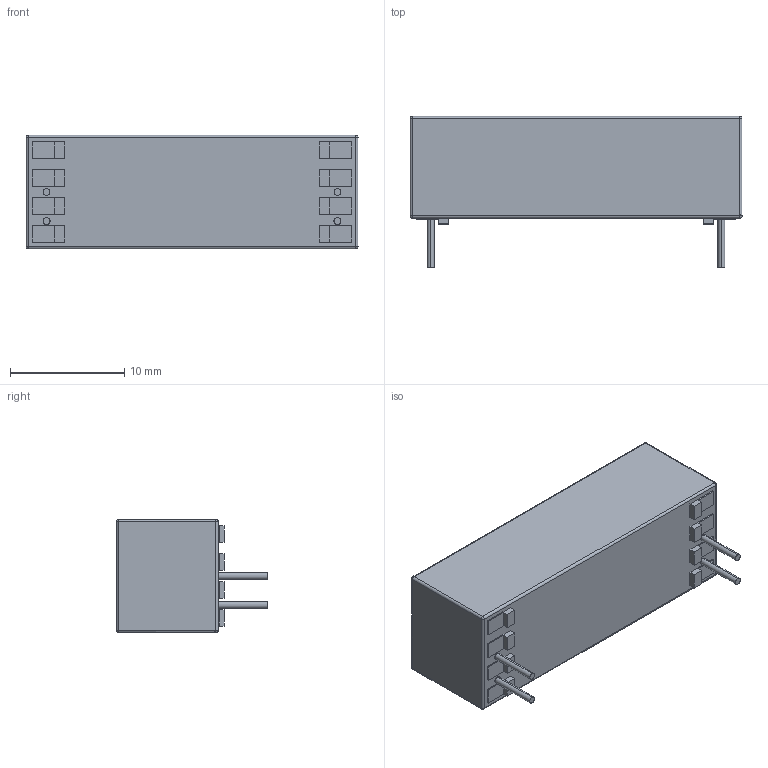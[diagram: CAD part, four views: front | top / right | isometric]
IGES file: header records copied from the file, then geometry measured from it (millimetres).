
Start section: SolidWorks IGES file using analytic representation for surfaces
Global section: file name: T:\Relays in Solidworks\Batch 3\88-1-A.IGS; native system: SolidWorks 2009; preprocessor: SolidWorks 2009; author: alex.leming; date: 100629.142951; units: millimetre
Bounding box: 29 x 13.2 x 9.9 mm (x, y, z)
Surface area: 1303.6 mm2 (no closed solid volume)
Topology: 0 solids, 0 shells, 771 faces, 7551 edges, 7543 vertices
Faces by surface type: bspline 737, revolution 34
